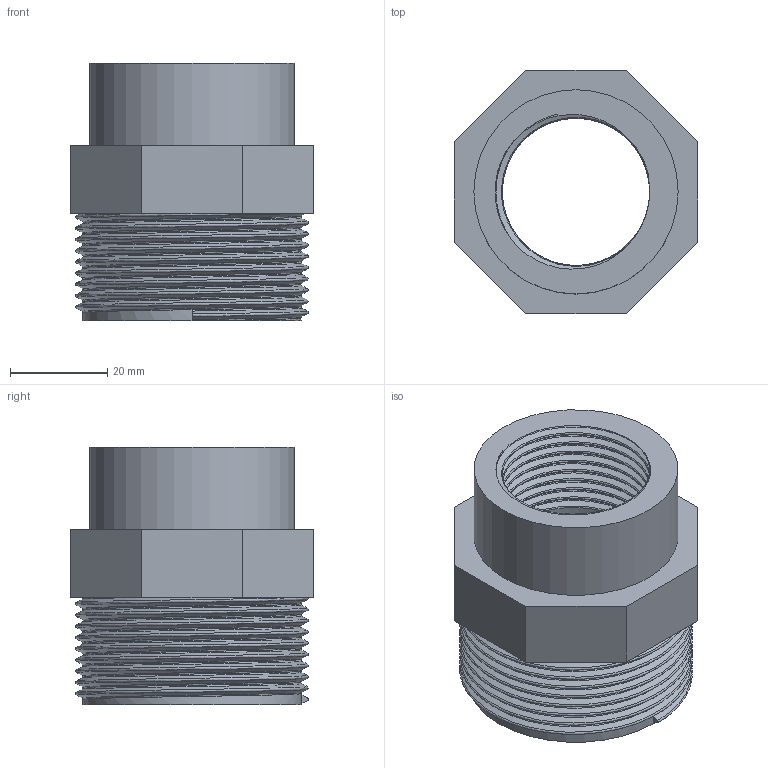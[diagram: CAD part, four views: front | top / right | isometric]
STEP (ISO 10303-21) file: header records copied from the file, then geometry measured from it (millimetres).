
FILE_DESCRIPTION(/* description */ (''),/* implementation_level */ '2;1');
FILE_NAME(/* name */ 'C:\Users\POLYPIPE\Desktop\DATASET INVENTOR\LIBRERIA EFFAST\RACCORDI 3DxWEB\RER\3D_RERRIE\3D_RERRIE050D.stp',/* time_stamp */ '2018-01-19T17:03:17+01:00',/* author */ ('POLYPIPE'),/* organization */ ('Polypipe Italia'),/* preprocessor_version */ 'ST-DEVELOPER v16.1',/* originating_system */ 'Autodesk Inventor 2016',/* authorisation */ '');
FILE_SCHEMA (('CONFIG_CONTROL_DESIGN'));
Length unit declared in the file: millimetre
Products named in the file (1): 3D_RERRIE050D
Bounding box: 50 x 50 x 53 mm (x, y, z)
Volume: 38324.9 mm3; surface area: 19665.7 mm2
Topology: 1 solids, 1 shells, 29 faces, 68 edges, 44 vertices
Faces by surface type: plane 15, bspline 10, cylinder 4
Full cylindrical faces by diameter (mm): 30.291 x1, 37.7 x1, 42 x1, 44.845 x1
Entity records: 7774 total; most frequent: CARTESIAN_POINT 7159, ORIENTED_EDGE 128, DIRECTION 94, EDGE_CURVE 64, VERTEX_POINT 43, EDGE_LOOP 37, AXIS2_PLACEMENT_3D 32, LINE 30
